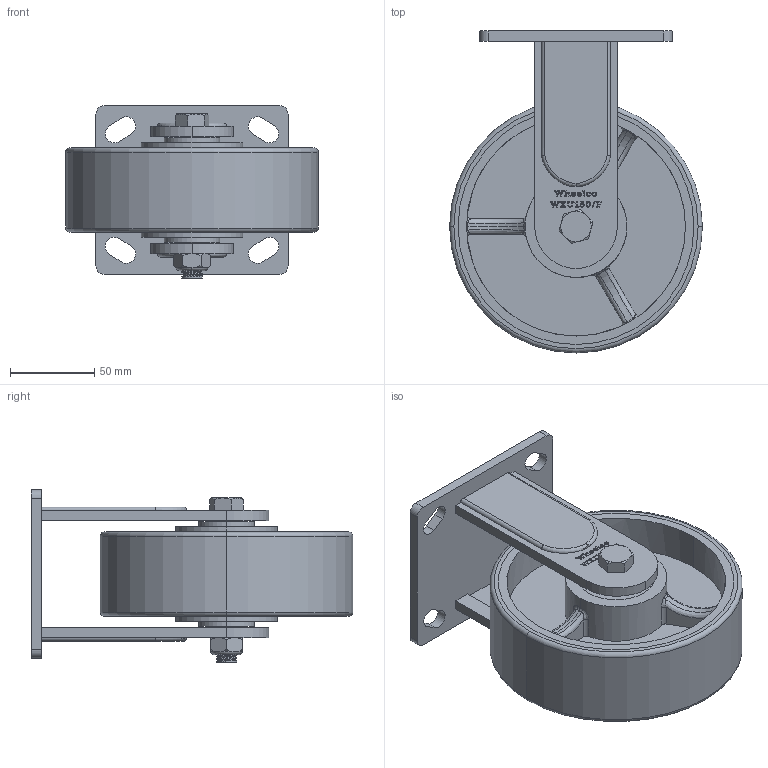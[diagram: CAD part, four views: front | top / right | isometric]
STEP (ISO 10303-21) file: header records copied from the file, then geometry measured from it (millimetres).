
FILE_DESCRIPTION (( 'STEP AP214' ), '1' );
FILE_NAME ('WXU150-F.step', '2024-01-17T23:04:44', ( '' ), ( '' ), 'SwSTEP 2.0', 'SolidWorks 2022', '' );
FILE_SCHEMA (( 'AUTOMOTIVE_DESIGN' ));
Length unit declared in the file: millimetre
Products named in the file (7): MXU150; SP20-12-62; WXU150-F; M12NYLOC; WX150-F; SP33X20X3; M12 X 90
Assembly tree (7 placements, depth 2):
  WXU150-F
    WX150-F
    SP20-12-62
    M12 X 90
    M12NYLOC
    MXU150
    SP33X20X3  x2
Bounding box: 150 x 191 x 102.25 mm (x, y, z)
Volume: 619323.5 mm3; surface area: 161582.4 mm2
Topology: 7 solids, 7 shells, 609 faces, 1621 edges, 1055 vertices
Faces by surface type: plane 287, cylinder 136, bspline 128, torus 42, cone 16
Entity records: 33734 total; most frequent: CARTESIAN_POINT 17208, ORIENTED_EDGE 3218, DIRECTION 2504, EDGE_CURVE 1609, VERTEX_POINT 1047, VECTOR 908, LINE 908, AXIS2_PLACEMENT_3D 798
